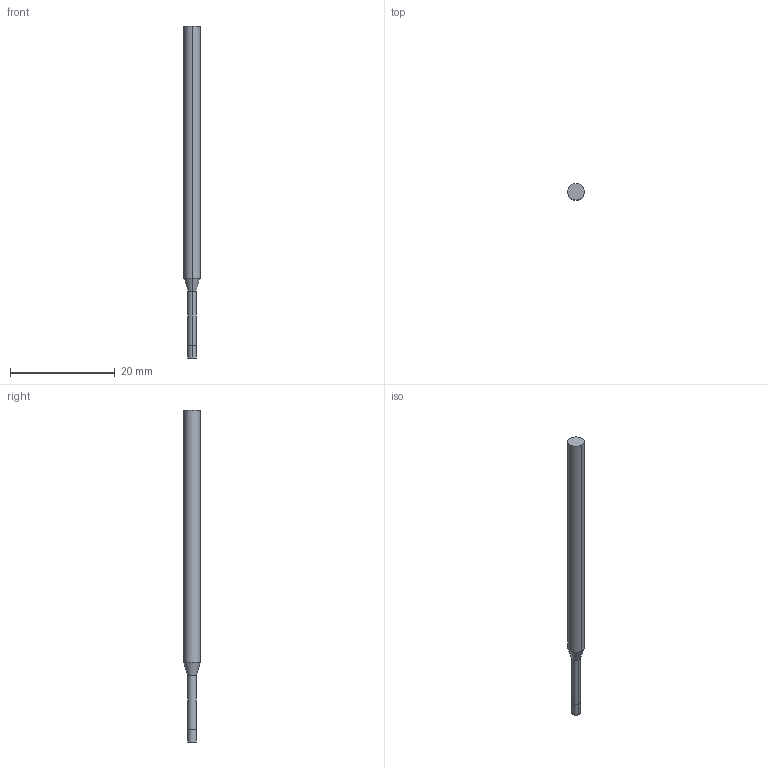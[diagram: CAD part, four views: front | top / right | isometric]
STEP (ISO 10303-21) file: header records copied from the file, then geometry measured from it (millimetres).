
FILE_DESCRIPTION((' '),'2;1');
FILE_NAME( '3MVS0625N8AH.stp', '2026-01-21T19:07:57', (' '), ('--- Datakit www.datakit.com---'), ' Datakit CrossCadWare V2025.4 Sep 19 2025', 'Mastercam 2027', ' ');
FILE_SCHEMA(('AUTOMOTIVE_DESIGN { 1 0 10303 214 1 1 1 1 }'));
Length unit declared in the file: inch
Products named in the file (1): 3MVS0625N8AH
Bounding box: 3.17 x 3.17 x 63.5 mm (x, y, z)
Volume: 418.8 mm3; surface area: 574.4 mm2
Topology: 1 solids, 1 shells, 10 faces, 18 edges, 10 vertices
Faces by surface type: cylinder 6, plane 2, cone 2
Entity records: 323 total; most frequent: DIRECTION 58, CARTESIAN_POINT 43, ORIENTED_EDGE 36, AXIS2_PLACEMENT_3D 25, EDGE_CURVE 18, VERTEX_POINT 10, CIRCLE 10, EDGE_LOOP 10
